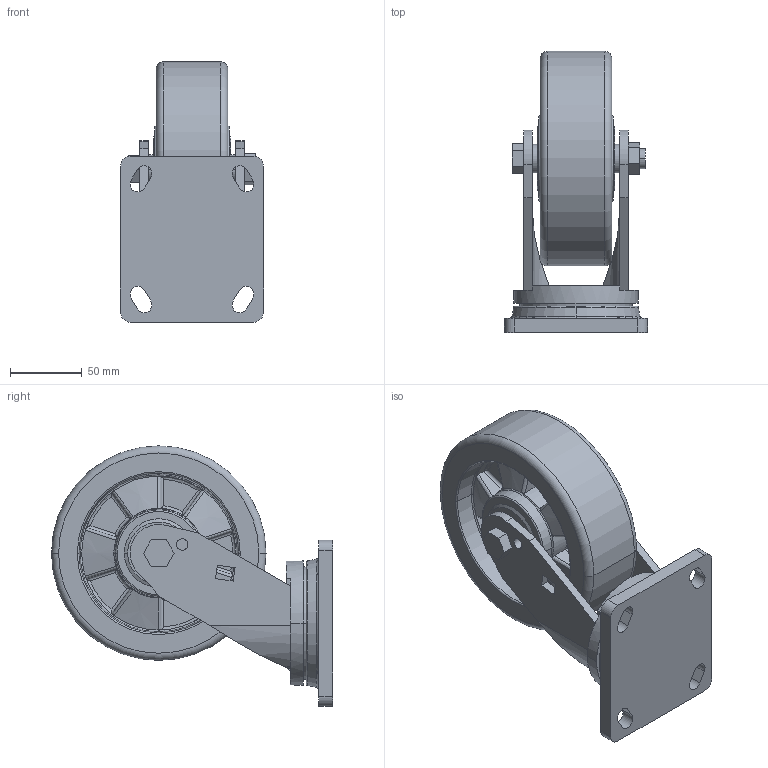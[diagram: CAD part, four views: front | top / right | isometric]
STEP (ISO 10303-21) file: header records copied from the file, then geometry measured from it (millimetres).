
FILE_DESCRIPTION((''),'2;1');
FILE_NAME('78116-786-86A__ASM','2020-07-06T',('lenovo'),(''),'PRO/ENGINEER BY PARAMETRIC TECHNOLOGY CORPORATION, 2010280','PRO/ENGINEER BY PARAMETRIC TECHNOLOGY CORPORATION, 2010280','');
FILE_SCHEMA(('CONFIG_CONTROL_DESIGN'));
Length unit declared in the file: millimetre
Products named in the file (10): 780-01B_; 786-86AB; PRODUCT_9640; PRT0016; PRT0017; PRT0018; PRODUCT_8921; 78116-786-86A__________ASM; _78116-786-86A_____; 78116-786-86A__ASM
Assembly tree (9 placements, depth 3):
  78116-786-86A__ASM
    78116-786-86A__________ASM
      780-01B_
      786-86AB
      PRODUCT_9640
      PRT0016
      PRT0017
      PRT0018
      PRODUCT_8921
    _78116-786-86A_____
Bounding box: 100 x 196.5 x 182 mm (x, y, z)
Volume: 929120.6 mm3; surface area: 164581.5 mm2
Topology: 7 solids, 7 shells, 305 faces, 722 edges, 442 vertices
Faces by surface type: plane 113, cylinder 92, torus 50, cone 28, bspline 22
Entity records: 10024 total; most frequent: CARTESIAN_POINT 2744, DIRECTION 1532, ORIENTED_EDGE 1444, EDGE_CURVE 722, AXIS2_PLACEMENT_3D 595, VERTEX_POINT 442, VECTOR 342, LINE 342
